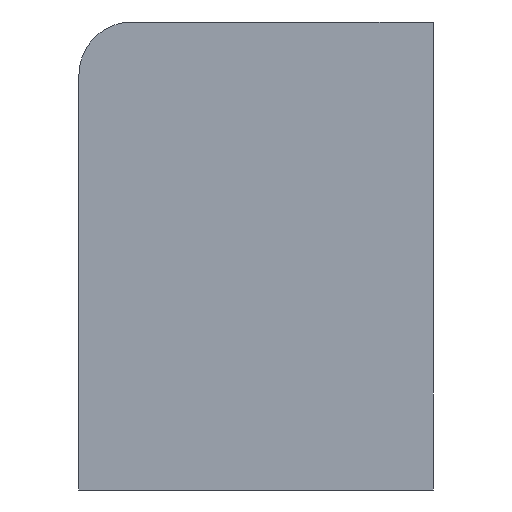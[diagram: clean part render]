
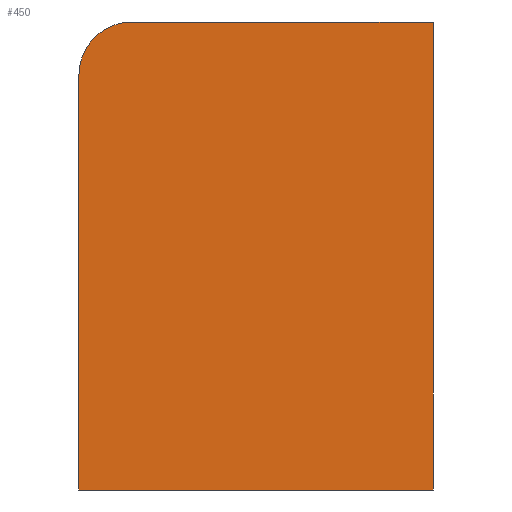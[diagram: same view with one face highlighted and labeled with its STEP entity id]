
A CAD part, left-side view. The second image highlights one B-rep face of the part: STEP entity #450.
In plain terms, the highlighted planar face has unit normal (-1, 0, 0).
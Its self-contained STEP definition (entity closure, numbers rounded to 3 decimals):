
#233=CARTESIAN_POINT('Vertex',(0.,0.,115.)) ;
#236=CARTESIAN_POINT('Line Origine',(0.,0.,57.5)) ;
#240=CARTESIAN_POINT('Vertex',(0.,0.,0.)) ;
#329=CARTESIAN_POINT('Vertex',(0.,87.,0.)) ;
#332=CARTESIAN_POINT('Line Origine',(0.,87.,51.)) ;
#336=CARTESIAN_POINT('Vertex',(0.,87.,102.)) ;
#396=CARTESIAN_POINT('Line Origine',(0.,43.5,0.)) ;
#414=CARTESIAN_POINT('Axis2P3D Location',(0.,74.,102.)) ;
#418=CARTESIAN_POINT('Vertex',(0.,74.,115.)) ;
#433=CARTESIAN_POINT('Axis2P3D Location',(0.,87.,0.)) ;
#438=CARTESIAN_POINT('Line Origine',(0.,37.,115.)) ;
#237=DIRECTION('Vector Direction',(0.,0.,1.)) ;
#333=DIRECTION('Vector Direction',(0.,0.,1.)) ;
#397=DIRECTION('Vector Direction',(0.,-1.,0.)) ;
#415=DIRECTION('Axis2P3D Direction',(-1.,0.,0.)) ;
#434=DIRECTION('Axis2P3D Direction',(-1.,0.,0.)) ;
#435=DIRECTION('Axis2P3D XDirection',(0.,-1.,0.)) ;
#439=DIRECTION('Vector Direction',(0.,1.,0.)) ;
#416=AXIS2_PLACEMENT_3D('Circle Axis2P3D',#414,#415,$) ;
#436=AXIS2_PLACEMENT_3D('Plane Axis2P3D',#433,#434,#435) ;
#444=ORIENTED_EDGE('',*,*,#242,.T.) ;
#445=ORIENTED_EDGE('',*,*,#442,.T.) ;
#446=ORIENTED_EDGE('',*,*,#420,.T.) ;
#447=ORIENTED_EDGE('',*,*,#338,.F.) ;
#448=ORIENTED_EDGE('',*,*,#400,.T.) ;
#238=VECTOR('Line Direction',#237,1.) ;
#334=VECTOR('Line Direction',#333,1.) ;
#398=VECTOR('Line Direction',#397,1.) ;
#440=VECTOR('Line Direction',#439,1.) ;
#450=ADVANCED_FACE('PartBody',(#449),#437,.T.) ;
#417=CIRCLE('generated circle',#416,13.) ;
#242=EDGE_CURVE('',#241,#234,#239,.T.) ;
#338=EDGE_CURVE('',#330,#337,#335,.T.) ;
#400=EDGE_CURVE('',#330,#241,#399,.T.) ;
#420=EDGE_CURVE('',#419,#337,#417,.T.) ;
#442=EDGE_CURVE('',#234,#419,#441,.T.) ;
#443=EDGE_LOOP('',(#444,#445,#446,#447,#448)) ;
#449=FACE_OUTER_BOUND('',#443,.T.) ;
#239=LINE('Line',#236,#238) ;
#335=LINE('Line',#332,#334) ;
#399=LINE('Line',#396,#398) ;
#441=LINE('Line',#438,#440) ;
#437=PLANE('',#436) ;
#234=VERTEX_POINT('',#233) ;
#241=VERTEX_POINT('',#240) ;
#330=VERTEX_POINT('',#329) ;
#337=VERTEX_POINT('',#336) ;
#419=VERTEX_POINT('',#418) ;
